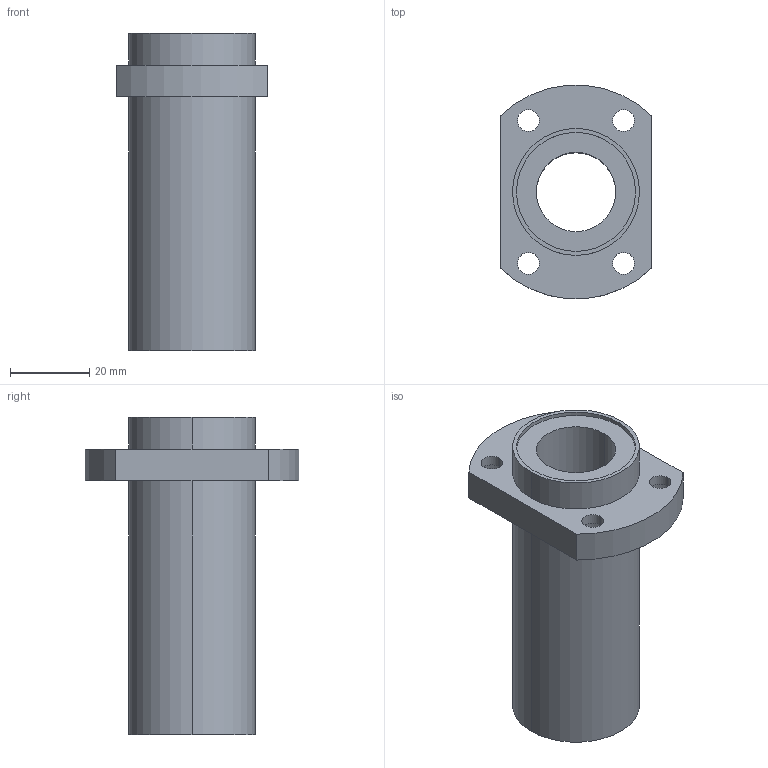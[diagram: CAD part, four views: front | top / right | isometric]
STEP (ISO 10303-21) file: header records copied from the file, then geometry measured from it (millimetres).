
FILE_DESCRIPTION((''),'2;1');
FILE_NAME('C:\Documents and Settings\ｿﾀﾀ蠑ｷ1\ｹﾙﾅﾁ ﾈｭｸ饅\ｺﾎﾇｰﾆﾄﾀﾏ\ﾁｦﾇｰ\LMHP__LUU\LMHP20LUU.stp','2005-06-15T12:05:06',('ｿﾀﾀ蠑ｷ1'),(''),'Autodesk Inventor 9','Autodesk Inventor 9','');
FILE_SCHEMA(('AUTOMOTIVE_DESIGN { 1 0 10303 214 1 1 1 1 }'));
Length unit declared in the file: millimetre
Products named in the file (1): LMHP__
Bounding box: 38 x 53.8 x 80 mm (x, y, z)
Volume: 45146.2 mm3; surface area: 17356 mm2
Topology: 1 solids, 1 shells, 40 faces, 90 edges, 60 vertices
Faces by surface type: cylinder 28, plane 12
Entity records: 1193 total; most frequent: DIRECTION 228, CARTESIAN_POINT 191, ORIENTED_EDGE 180, AXIS2_PLACEMENT_3D 97, EDGE_CURVE 90, VERTEX_POINT 60, EDGE_LOOP 58, CIRCLE 56
